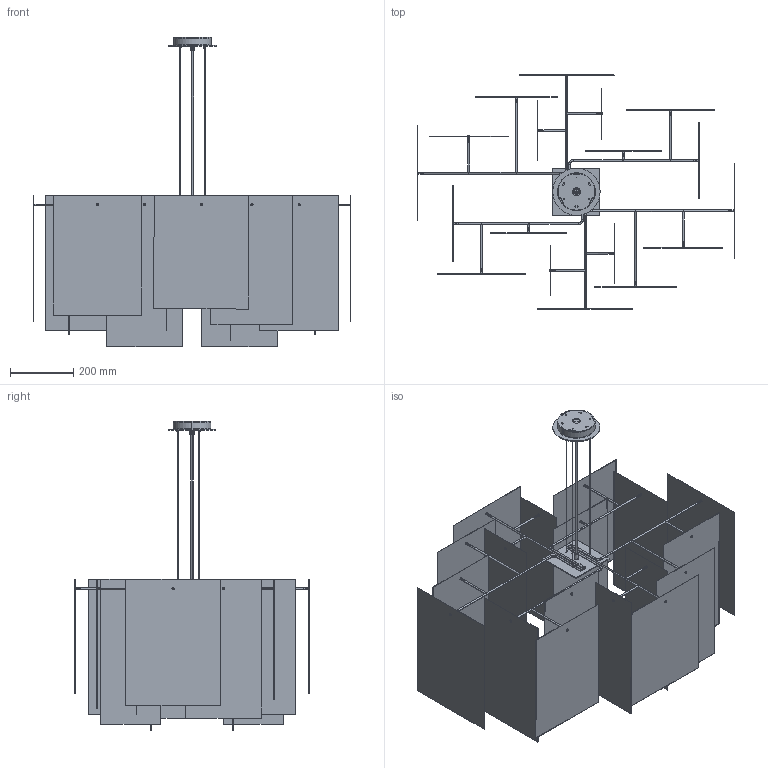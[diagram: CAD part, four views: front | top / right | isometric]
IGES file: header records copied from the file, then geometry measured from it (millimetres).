
Global section: file name: No Iges File Name specified; native system: AutoDesk Inventor R11.0; preprocessor: AutoDesk Inventor Iges Exporter R11.0; author: No Author specified; organization: No Organization specified; date: 20150818.095035; units: millimetre
Bounding box: 1007 x 745 x 981.1 mm (x, y, z)
Volume: 2198565.8 mm3; surface area: 4004522.9 mm2
Topology: 59 solids, 59 shells, 1537 faces, 3836 edges, 2420 vertices
Faces by surface type: plane 586, cylinder 376, bspline 240, cone 176, revolution 99, torus 60
